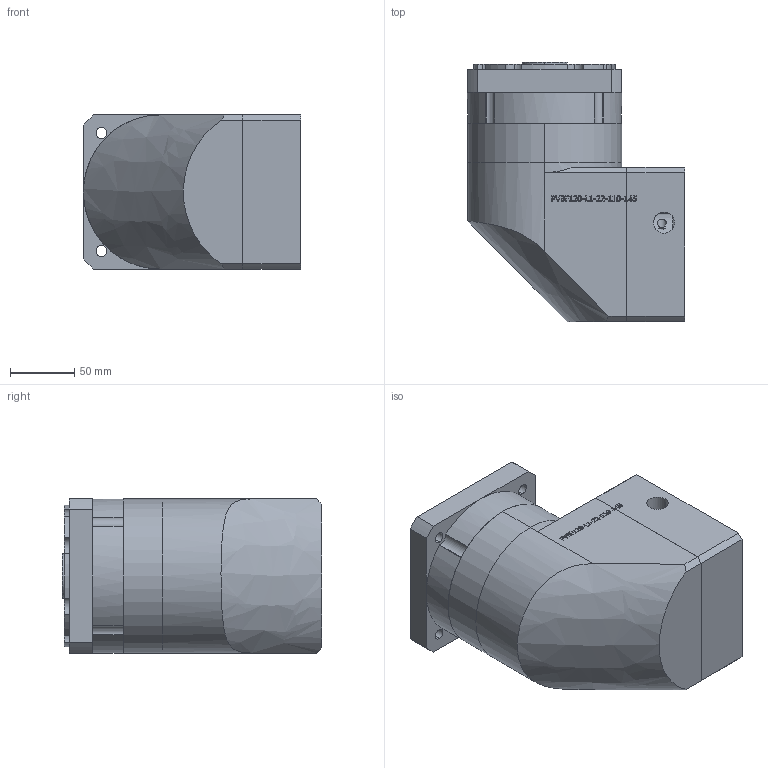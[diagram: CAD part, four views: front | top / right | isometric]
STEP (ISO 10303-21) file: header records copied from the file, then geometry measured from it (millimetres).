
FILE_DESCRIPTION (( 'STEP AP203' ), '1' );
FILE_NAME ('PVBF120-L1-22-110-145-1.STEP', '2023-10-23T03:16:39', ( 'Windows User' ), ( 'P R C' ), 'SwSTEP 2.0', 'SolidWorks 2016', '' );
FILE_SCHEMA (( 'CONFIG_CONTROL_DESIGN' ));
Length unit declared in the file: millimetre
Products named in the file (8): 螺釘範本 M8x20; 粣創-3207A 35x72x27_2; PVBF120-L1-22-110-145-1; B-PVBF120-眊极; PVBF120 κｳﾝﾈｦ-ﾓﾅｻｯ_ﾒｻｼｶﾄﾚｳﾝﾈｦ; PVBF120 奻屳唳-謂怀堤-20-B6; PVBF120-蟀諉啣; PVBF120-薊粣ん-梓袧
Assembly tree (7 placements, depth 2):
  PVBF120-L1-22-110-145-1
    B-PVBF120-眊极
    PVBF120 κｳﾝﾈｦ-ﾓﾅｻｯ_ﾒｻｼｶﾄﾚｳﾝﾈｦ
    PVBF120 奻屳唳-謂怀堤-20-B6
    PVBF120-蟀諉啣
    PVBF120-薊粣ん-梓袧
    螺釘範本 M8x20
    粣創-3207A 35x72x27_2
Bounding box: 169 x 202 x 120 mm (x, y, z)
Volume: 2590547.2 mm3; surface area: 302733.2 mm2
Topology: 7 solids, 15 shells, 812 faces, 2368 edges, 1550 vertices
Faces by surface type: plane 375, cylinder 216, torus 90, bspline 59, sphere 48, cone 24
Entity records: 33710 total; most frequent: CARTESIAN_POINT 12508, ORIENTED_EDGE 4464, DIRECTION 3964, EDGE_CURVE 2232, VERTEX_POINT 1478, AXIS2_PLACEMENT_3D 1444, LINE 1076, VECTOR 1076
